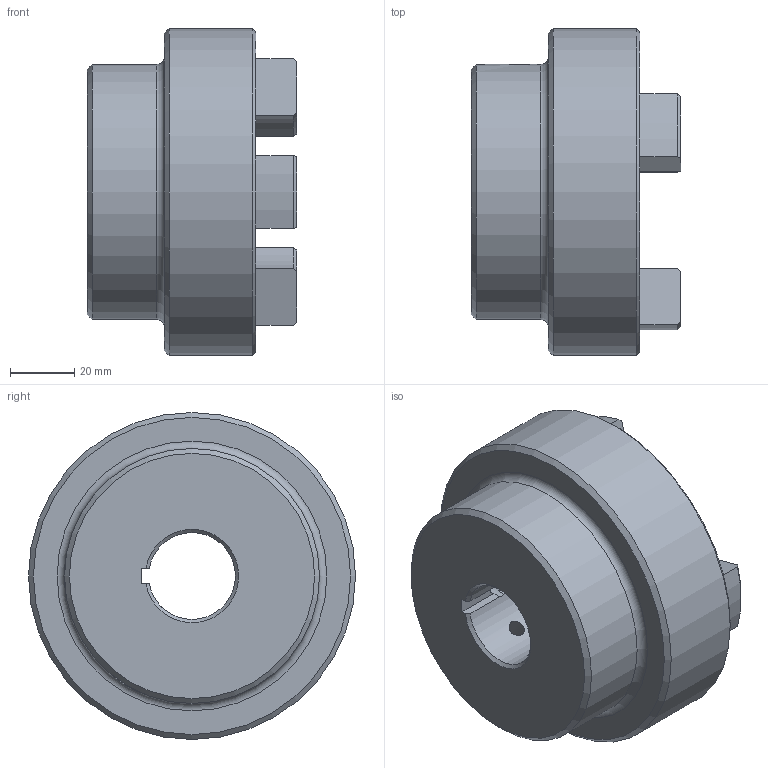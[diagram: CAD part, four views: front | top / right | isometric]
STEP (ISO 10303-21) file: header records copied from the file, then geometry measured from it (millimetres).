
FILE_DESCRIPTION (( 'STEP AP203' ), '1' );
FILE_NAME ('RC4.step', '2024-07-24T17:37:18', ( 'Adlan' ), ( '' ), 'SwSTEP 2.0', 'SolidWorks 2013', '' );
FILE_SCHEMA (( 'CONFIG_CONTROL_DESIGN' ));
Length unit declared in the file: inch
Products named in the file (1): RC4
Bounding box: 65.02 x 101.6 x 101.6 mm (x, y, z)
Volume: 257647.1 mm3; surface area: 41191.9 mm2
Topology: 1 solids, 1 shells, 70 faces, 180 edges, 113 vertices
Faces by surface type: cylinder 26, plane 19, torus 13, cone 12
Full cylindrical faces by diameter (mm): 5.105 x2, 79.248 x1, 101.6 x1
Entity records: 2369 total; most frequent: CARTESIAN_POINT 605, DIRECTION 370, ORIENTED_EDGE 332, EDGE_CURVE 166, AXIS2_PLACEMENT_3D 146, VERTEX_POINT 109, EDGE_LOOP 87, VECTOR 78
